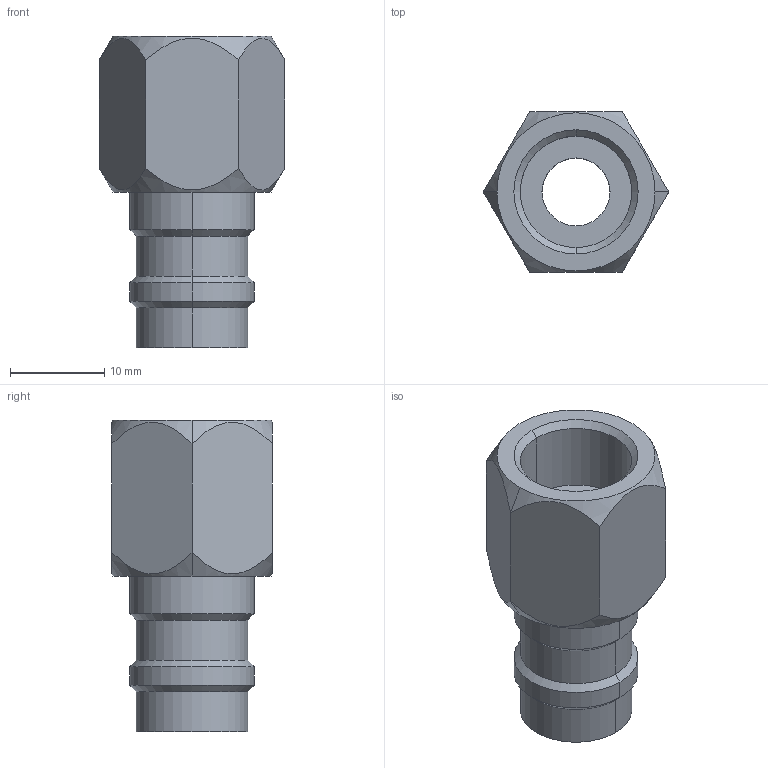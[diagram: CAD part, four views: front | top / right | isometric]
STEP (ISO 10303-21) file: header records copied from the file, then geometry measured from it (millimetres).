
FILE_DESCRIPTION((''),'2;1');
FILE_NAME('1823373001','2018-08-21T',('tng2hc'),(''),'CREO PARAMETRIC BY PTC INC, 2016260','CREO PARAMETRIC BY PTC INC, 2016260','');
FILE_SCHEMA(('CONFIG_CONTROL_DESIGN'));
Length unit declared in the file: millimetre
Products named in the file (1): 1823373001
Bounding box: 19.63 x 17 x 33 mm (x, y, z)
Volume: 4174.7 mm3; surface area: 2828.8 mm2
Topology: 1 solids, 1 shells, 34 faces, 72 edges, 42 vertices
Faces by surface type: cone 12, cylinder 12, plane 10
Entity records: 1217 total; most frequent: CARTESIAN_POINT 424, DIRECTION 158, ORIENTED_EDGE 144, EDGE_CURVE 72, AXIS2_PLACEMENT_3D 64, VERTEX_POINT 42, EDGE_LOOP 38, FACE_OUTER_BOUND 34
